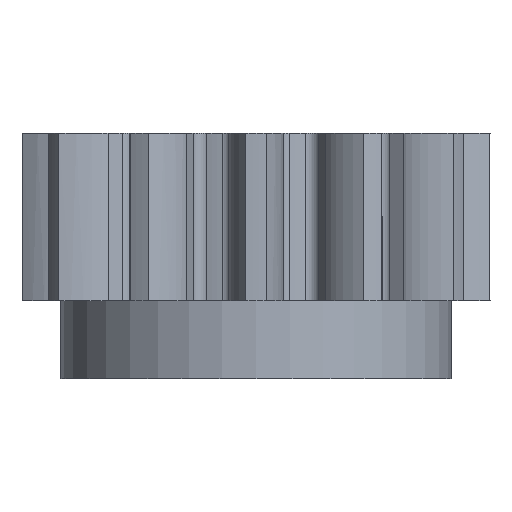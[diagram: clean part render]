
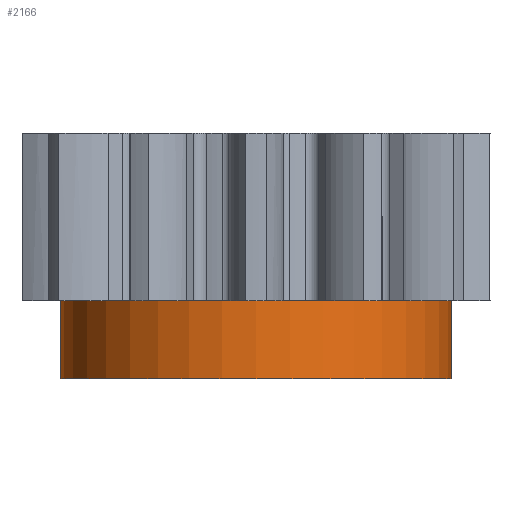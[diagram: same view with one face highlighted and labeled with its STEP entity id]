
A CAD part, front view. The second image highlights one B-rep face of the part: STEP entity #2166.
In plain terms, the highlighted cylindrical face has radius 17.5 mm (diameter 35 mm), a partial arc.
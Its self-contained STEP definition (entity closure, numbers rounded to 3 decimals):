
#248=FACE_OUTER_BOUND('',#370,.T.);
#370=EDGE_LOOP('',(#1996,#1997,#1998,#1999));
#516=LINE('',#10666,#682);
#523=LINE('',#10688,#689);
#682=VECTOR('',#2880,7.);
#689=VECTOR('',#2899,7.);
#803=CIRCLE('',#2360,17.5);
#810=CIRCLE('',#2376,17.5);
#1007=VERTEX_POINT('',#10663);
#1008=VERTEX_POINT('',#10665);
#1010=VERTEX_POINT('',#10671);
#1017=VERTEX_POINT('',#10687);
#1320=EDGE_CURVE('',#1007,#1008,#516,.T.);
#1323=EDGE_CURVE('',#1008,#1010,#803,.T.);
#1331=EDGE_CURVE('',#1010,#1017,#523,.T.);
#1349=EDGE_CURVE('',#1017,#1007,#810,.T.);
#1996=ORIENTED_EDGE('',*,*,#1320,.F.);
#1997=ORIENTED_EDGE('',*,*,#1349,.F.);
#1998=ORIENTED_EDGE('',*,*,#1331,.F.);
#1999=ORIENTED_EDGE('',*,*,#1323,.F.);
#2054=CYLINDRICAL_SURFACE('',#2379,17.5);
#2166=ADVANCED_FACE('',(#248),#2054,.T.);
#2360=AXIS2_PLACEMENT_3D('',#10672,#2886,#2887);
#2376=AXIS2_PLACEMENT_3D('',#10756,#2936,#2937);
#2379=AXIS2_PLACEMENT_3D('',#10761,#2943,#2944);
#2880=DIRECTION('',(0.,0.,1.));
#2886=DIRECTION('center_axis',(0.,0.,1.));
#2887=DIRECTION('ref_axis',(1.,0.,0.));
#2899=DIRECTION('',(0.,0.,-1.));
#2936=DIRECTION('center_axis',(0.,0.,-1.));
#2937=DIRECTION('ref_axis',(1.,0.,0.));
#2943=DIRECTION('center_axis',(0.,0.,1.));
#2944=DIRECTION('ref_axis',(0.,-1.,0.));
#10663=CARTESIAN_POINT('',(-11.197,13.449,-7.));
#10665=CARTESIAN_POINT('',(-11.197,13.449,0.));
#10666=CARTESIAN_POINT('',(-11.197,13.449,0.));
#10671=CARTESIAN_POINT('',(11.197,13.449,0.));
#10672=CARTESIAN_POINT('Origin',(0.,0.,
0.));
#10687=CARTESIAN_POINT('',(11.197,13.449,-7.));
#10688=CARTESIAN_POINT('',(11.197,13.449,-7.));
#10756=CARTESIAN_POINT('Origin',(0.,0.,
-7.));
#10761=CARTESIAN_POINT('Origin',(0.,0.,
-5.));
